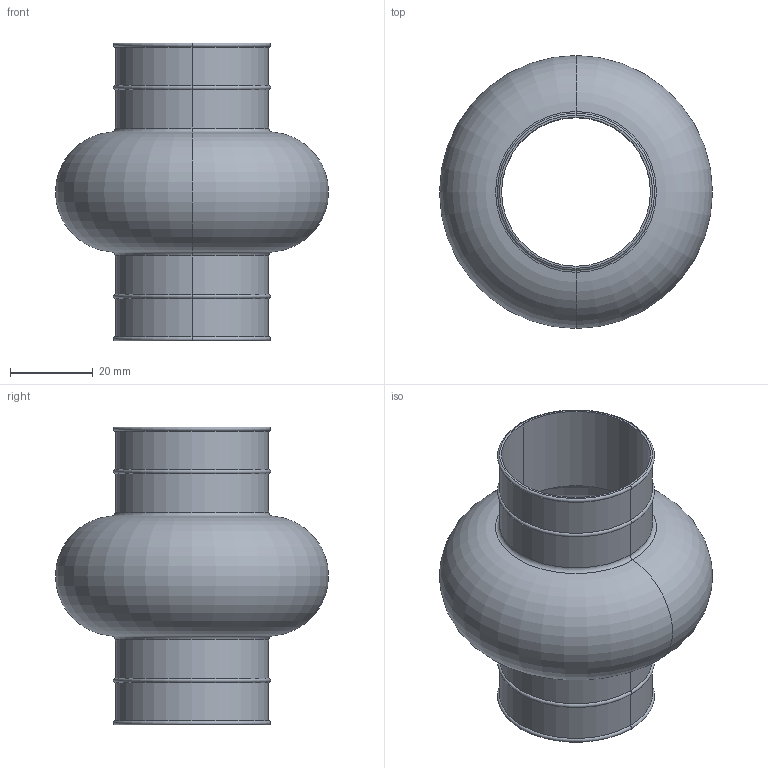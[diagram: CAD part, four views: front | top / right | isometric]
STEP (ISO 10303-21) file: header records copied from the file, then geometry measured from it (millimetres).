
FILE_DESCRIPTION (( 'STEP AP203' ), '1' );
FILE_NAME ('65280.W0036.step', '2018-06-20T18:12:18', ( '' ), ( '' ), 'SwSTEP 2.0', 'SolidWorks 2017', '' );
FILE_SCHEMA (( 'CONFIG_CONTROL_DESIGN' ));
Length unit declared in the file: millimetre
Products named in the file (1): 65280.W0036
Bounding box: 66 x 66 x 72 mm (x, y, z)
Volume: 6631.2 mm3; surface area: 25904.9 mm2
Topology: 1 solids, 1 shells, 30 faces, 60 edges, 32 vertices
Faces by surface type: torus 16, cylinder 12, plane 2
Entity records: 861 total; most frequent: DIRECTION 170, CARTESIAN_POINT 123, ORIENTED_EDGE 120, AXIS2_PLACEMENT_3D 79, EDGE_CURVE 60, CIRCLE 48, VERTEX_POINT 32, EDGE_LOOP 32
